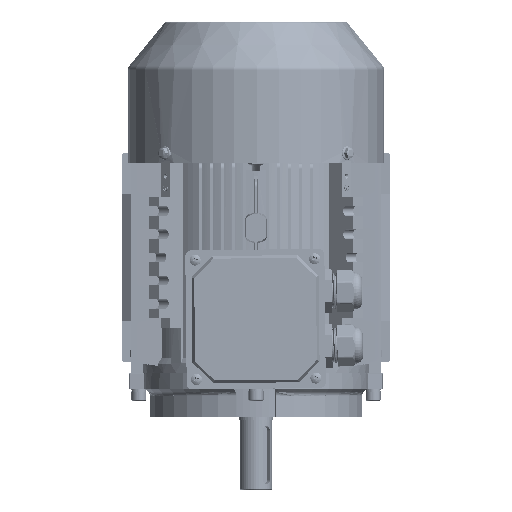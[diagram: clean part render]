
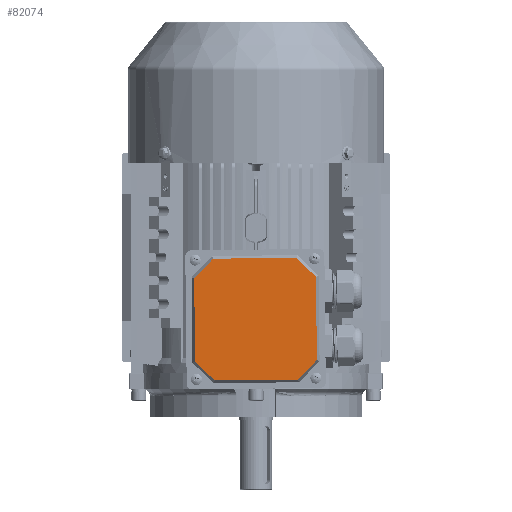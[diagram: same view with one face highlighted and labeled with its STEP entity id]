
A CAD part, top view. The second image highlights one B-rep face of the part: STEP entity #82074.
In plain terms, the highlighted planar face has unit normal (0, 0, 1) as drawn and (0, 0, -1) by its records, which use the part's own axes.
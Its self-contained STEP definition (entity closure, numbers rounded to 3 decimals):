
#742 = CARTESIAN_POINT ( 'NONE',  ( -44.22, 44.22, -4. ) ) ;
#1407 = EDGE_CURVE ( 'NONE', #51315, #103109, #97985, .T. ) ;
#2483 = VECTOR ( 'NONE', #76605, 1000. ) ;
#3532 = VERTEX_POINT ( 'NONE', #99659 ) ;
#4043 = VECTOR ( 'NONE', #108533, 1000. ) ;
#4443 = CARTESIAN_POINT ( 'NONE',  ( 44.22, -44.22, -4. ) ) ;
#4812 = LINE ( 'NONE', #81692, #100323 ) ;
#5312 = VECTOR ( 'NONE', #49192, 1000. ) ;
#13833 = CARTESIAN_POINT ( 'NONE',  ( 0., 52.536, -4. ) ) ;
#14513 = LINE ( 'NONE', #110040, #107191 ) ;
#14724 = CARTESIAN_POINT ( 'NONE',  ( 0., -52.536, -4. ) ) ;
#17238 = CARTESIAN_POINT ( 'NONE',  ( -35.903, 52.536, -4. ) ) ;
#21232 = ORIENTED_EDGE ( 'NONE', *, *, #90467, .F. ) ;
#26587 = DIRECTION ( 'NONE',  ( 0., 0., 1. ) ) ;
#27940 = LINE ( 'NONE', #54710, #4043 ) ;
#28277 = VERTEX_POINT ( 'NONE', #17238 ) ;
#31283 = VERTEX_POINT ( 'NONE', #111790 ) ;
#33732 = AXIS2_PLACEMENT_3D ( 'NONE', #80360, #26587, #89429 ) ;
#34092 = EDGE_CURVE ( 'NONE', #103109, #38434, #27940, .T. ) ;
#36339 = VECTOR ( 'NONE', #45496, 1000. ) ;
#36913 = DIRECTION ( 'NONE',  ( 0., -1., 0. ) ) ;
#38434 = VERTEX_POINT ( 'NONE', #56007 ) ;
#42822 = CARTESIAN_POINT ( 'NONE',  ( -52.536, 35.903, -4. ) ) ;
#45496 = DIRECTION ( 'NONE',  ( -0.707, -0.707, 0. ) ) ;
#47226 = DIRECTION ( 'NONE',  ( -0.707, 0.707, 0. ) ) ;
#49192 = DIRECTION ( 'NONE',  ( 0.707, 0.707, 0. ) ) ;
#50571 = ORIENTED_EDGE ( 'NONE', *, *, #96744, .F. ) ;
#51315 = VERTEX_POINT ( 'NONE', #71886 ) ;
#52106 = DIRECTION ( 'NONE',  ( 0.707, -0.707, 0. ) ) ;
#52914 = ORIENTED_EDGE ( 'NONE', *, *, #114784, .F. ) ;
#54497 = EDGE_LOOP ( 'NONE', ( #68565, #62202, #84555, #52914, #115287, #50571, #21232, #96141 ) ) ;
#54710 = CARTESIAN_POINT ( 'NONE',  ( 52.536, 0., -4. ) ) ;
#56007 = CARTESIAN_POINT ( 'NONE',  ( 52.536, 35.903, -4. ) ) ;
#58345 = CARTESIAN_POINT ( 'NONE',  ( -35.903, -52.536, -4. ) ) ;
#58730 = VECTOR ( 'NONE', #52106, 1000. ) ;
#61852 = EDGE_CURVE ( 'NONE', #63091, #51315, #107826, .T. ) ;
#62202 = ORIENTED_EDGE ( 'NONE', *, *, #1407, .F. ) ;
#62889 = VECTOR ( 'NONE', #86574, 1000. ) ;
#63091 = VERTEX_POINT ( 'NONE', #58345 ) ;
#64085 = EDGE_CURVE ( 'NONE', #69590, #3532, #4812, .T. ) ;
#68565 = ORIENTED_EDGE ( 'NONE', *, *, #34092, .F. ) ;
#69590 = VERTEX_POINT ( 'NONE', #42822 ) ;
#71886 = CARTESIAN_POINT ( 'NONE',  ( 35.903, -52.536, -4. ) ) ;
#74474 = EDGE_CURVE ( 'NONE', #38434, #31283, #14513, .T. ) ;
#75885 = FACE_OUTER_BOUND ( 'NONE', #54497, .T. ) ;
#76605 = DIRECTION ( 'NONE',  ( -1., 0., 0. ) ) ;
#80360 = CARTESIAN_POINT ( 'NONE',  ( 0., 0., -4. ) ) ;
#81692 = CARTESIAN_POINT ( 'NONE',  ( -52.536, 0., -4. ) ) ;
#82074 = ADVANCED_FACE ( 'NONE', ( #75885 ), #107068, .F. ) ;
#84555 = ORIENTED_EDGE ( 'NONE', *, *, #61852, .F. ) ;
#86574 = DIRECTION ( 'NONE',  ( 1., 0., 0. ) ) ;
#89429 = DIRECTION ( 'NONE',  ( 1., 0., 0. ) ) ;
#90467 = EDGE_CURVE ( 'NONE', #31283, #28277, #98002, .T. ) ;
#96141 = ORIENTED_EDGE ( 'NONE', *, *, #74474, .F. ) ;
#96744 = EDGE_CURVE ( 'NONE', #28277, #69590, #107984, .T. ) ;
#97985 = LINE ( 'NONE', #4443, #5312 ) ;
#98002 = LINE ( 'NONE', #13833, #2483 ) ;
#99659 = CARTESIAN_POINT ( 'NONE',  ( -52.536, -35.903, -4. ) ) ;
#100323 = VECTOR ( 'NONE', #36913, 1000. ) ;
#103109 = VERTEX_POINT ( 'NONE', #112784 ) ;
#106525 = LINE ( 'NONE', #114904, #58730 ) ;
#107068 = PLANE ( 'NONE',  #33732 ) ;
#107191 = VECTOR ( 'NONE', #47226, 1000. ) ;
#107826 = LINE ( 'NONE', #14724, #62889 ) ;
#107984 = LINE ( 'NONE', #742, #36339 ) ;
#108533 = DIRECTION ( 'NONE',  ( 0., 1., 0. ) ) ;
#110040 = CARTESIAN_POINT ( 'NONE',  ( 44.22, 44.22, -4. ) ) ;
#111790 = CARTESIAN_POINT ( 'NONE',  ( 35.903, 52.536, -4. ) ) ;
#112784 = CARTESIAN_POINT ( 'NONE',  ( 52.536, -35.903, -4. ) ) ;
#114784 = EDGE_CURVE ( 'NONE', #3532, #63091, #106525, .T. ) ;
#114904 = CARTESIAN_POINT ( 'NONE',  ( -44.22, -44.22, -4. ) ) ;
#115287 = ORIENTED_EDGE ( 'NONE', *, *, #64085, .F. ) ;
